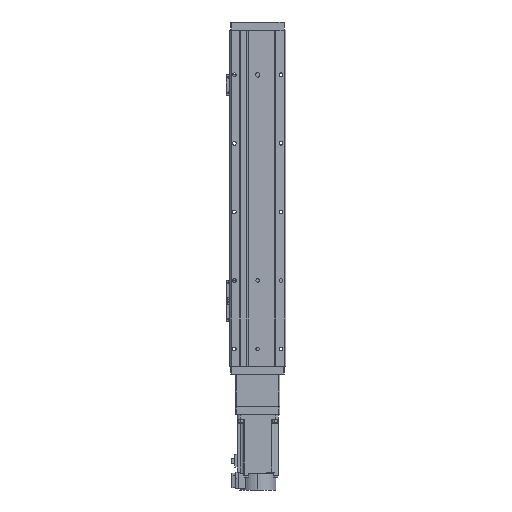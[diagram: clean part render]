
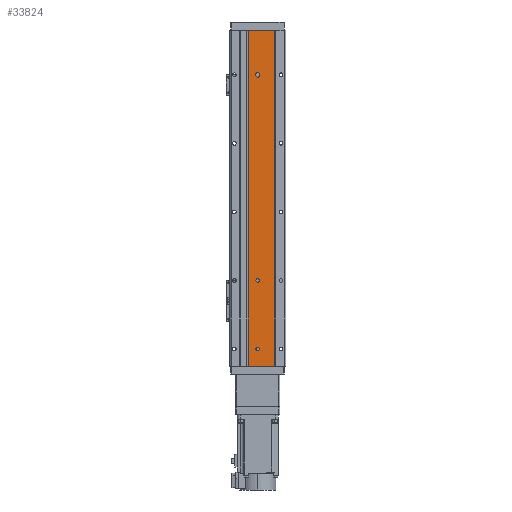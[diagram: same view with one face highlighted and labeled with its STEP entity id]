
A CAD part, front view. The second image highlights one B-rep face of the part: STEP entity #33824.
In plain terms, the highlighted planar face has unit normal (0, -1, 0).
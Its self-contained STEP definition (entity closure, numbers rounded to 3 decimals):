
#266 = AXIS2_PLACEMENT_3D ( 'NONE', #38052, #11399, #23253 ) ;
#548 = VERTEX_POINT ( 'NONE', #29110 ) ;
#782 = FACE_BOUND ( 'NONE', #17330, .T. ) ;
#853 = LINE ( 'NONE', #12718, #24518 ) ;
#1631 = DIRECTION ( 'NONE',  ( 0., 0., -1. ) ) ;
#2215 = DIRECTION ( 'NONE',  ( 1., 0., 0. ) ) ;
#2478 = DIRECTION ( 'NONE',  ( 0., -1., 0. ) ) ;
#3739 = CARTESIAN_POINT ( 'NONE',  ( -2.5, 1., -179. ) ) ;
#4239 = EDGE_CURVE ( 'NONE', #17411, #29696, #13378, .T. ) ;
#4323 = DIRECTION ( 'NONE',  ( 0., -1., 0. ) ) ;
#5245 = DIRECTION ( 'NONE',  ( 1., 0., 0. ) ) ;
#5263 = AXIS2_PLACEMENT_3D ( 'NONE', #16388, #28257, #1631 ) ;
#5514 = DIRECTION ( 'NONE',  ( 0., -1., 0. ) ) ;
#5761 = LINE ( 'NONE', #17623, #13371 ) ;
#7567 = AXIS2_PLACEMENT_3D ( 'NONE', #30952, #4323, #16171 ) ;
#7706 = CIRCLE ( 'NONE', #29440, 2.5 ) ;
#7936 = VERTEX_POINT ( 'NONE', #34484 ) ;
#8023 = EDGE_CURVE ( 'NONE', #22595, #18289, #9999, .T. ) ;
#8264 = EDGE_LOOP ( 'NONE', ( #22761, #37265 ) ) ;
#8598 = CARTESIAN_POINT ( 'NONE',  ( 2.5, 1., -181. ) ) ;
#8835 = DIRECTION ( 'NONE',  ( 0., -1., 0. ) ) ;
#9370 = ORIENTED_EDGE ( 'NONE', *, *, #31923, .F. ) ;
#9413 = ORIENTED_EDGE ( 'NONE', *, *, #13312, .T. ) ;
#9562 = VECTOR ( 'NONE', #5245, 1000. ) ;
#9574 = CARTESIAN_POINT ( 'NONE',  ( 2.5, 1., -179. ) ) ;
#9744 = CARTESIAN_POINT ( 'NONE',  ( -25., 1., 245. ) ) ;
#9897 = DIRECTION ( 'NONE',  ( 0., -1., 0. ) ) ;
#9999 = CIRCLE ( 'NONE', #31689, 2.5 ) ;
#10190 = CIRCLE ( 'NONE', #31897, 2.5 ) ;
#11399 = DIRECTION ( 'NONE',  ( 0., -1., 0. ) ) ;
#12078 = VERTEX_POINT ( 'NONE', #24048 ) ;
#12644 = FACE_BOUND ( 'NONE', #8264, .T. ) ;
#12718 = CARTESIAN_POINT ( 'NONE',  ( -2.5, 1., -179. ) ) ;
#13021 = VERTEX_POINT ( 'NONE', #15206 ) ;
#13312 = EDGE_CURVE ( 'NONE', #16101, #29696, #20012, .T. ) ;
#13371 = VECTOR ( 'NONE', #29479, 1000. ) ;
#13378 = LINE ( 'NONE', #25234, #17303 ) ;
#13443 = VECTOR ( 'NONE', #2215, 1000. ) ;
#13777 = EDGE_CURVE ( 'NONE', #7936, #13834, #7706, .T. ) ;
#13834 = VERTEX_POINT ( 'NONE', #17984 ) ;
#14039 = CARTESIAN_POINT ( 'NONE',  ( 14., 1., -245. ) ) ;
#14054 = EDGE_CURVE ( 'NONE', #12078, #31770, #22020, .T. ) ;
#14327 = DIRECTION ( 'NONE',  ( 0., 0., -1. ) ) ;
#15206 = CARTESIAN_POINT ( 'NONE',  ( -2.5, 1., -181. ) ) ;
#15661 = AXIS2_PLACEMENT_3D ( 'NONE', #36544, #9897, #21736 ) ;
#15983 = EDGE_CURVE ( 'NONE', #548, #16101, #5761, .T. ) ;
#16101 = VERTEX_POINT ( 'NONE', #33171 ) ;
#16171 = DIRECTION ( 'NONE',  ( 0., 0., -1. ) ) ;
#16388 = CARTESIAN_POINT ( 'NONE',  ( 0., 1., -181. ) ) ;
#16972 = LINE ( 'NONE', #28835, #13443 ) ;
#17014 = CIRCLE ( 'NONE', #266, 2.5 ) ;
#17303 = VECTOR ( 'NONE', #37109, 1000. ) ;
#17330 = EDGE_LOOP ( 'NONE', ( #25695, #34841 ) ) ;
#17358 = DIRECTION ( 'NONE',  ( 0., 0., -1. ) ) ;
#17411 = VERTEX_POINT ( 'NONE', #38322 ) ;
#17623 = CARTESIAN_POINT ( 'NONE',  ( -25., 1., 245. ) ) ;
#17984 = CARTESIAN_POINT ( 'NONE',  ( 0., 1., 117.5 ) ) ;
#18289 = VERTEX_POINT ( 'NONE', #3739 ) ;
#19205 = EDGE_LOOP ( 'NONE', ( #26077, #37176, #9370, #37185, #33258 ) ) ;
#20012 = LINE ( 'NONE', #31861, #9562 ) ;
#20402 = ORIENTED_EDGE ( 'NONE', *, *, #15983, .T. ) ;
#20681 = DIRECTION ( 'NONE',  ( 0., 0., -1. ) ) ;
#20947 = CARTESIAN_POINT ( 'NONE',  ( 0., 1., 217.5 ) ) ;
#21436 = DIRECTION ( 'NONE',  ( 0., 0., 1. ) ) ;
#21513 = EDGE_CURVE ( 'NONE', #23017, #31498, #24342, .T. ) ;
#21590 = DIRECTION ( 'NONE',  ( 0., 1., 0. ) ) ;
#21736 = DIRECTION ( 'NONE',  ( 0., 0., -1. ) ) ;
#22020 = CIRCLE ( 'NONE', #5263, 2.5 ) ;
#22595 = VERTEX_POINT ( 'NONE', #38400 ) ;
#22761 = ORIENTED_EDGE ( 'NONE', *, *, #37925, .F. ) ;
#23017 = VERTEX_POINT ( 'NONE', #27006 ) ;
#23253 = DIRECTION ( 'NONE',  ( 0., 0., -1. ) ) ;
#23379 = EDGE_CURVE ( 'NONE', #13021, #12078, #17014, .T. ) ;
#24018 = EDGE_CURVE ( 'NONE', #18289, #13021, #853, .T. ) ;
#24048 = CARTESIAN_POINT ( 'NONE',  ( 0., 1., -183.5 ) ) ;
#24342 = CIRCLE ( 'NONE', #7567, 2.5 ) ;
#24494 = FACE_OUTER_BOUND ( 'NONE', #34326, .T. ) ;
#24518 = VECTOR ( 'NONE', #24564, 1000. ) ;
#24564 = DIRECTION ( 'NONE',  ( 0., 0., -1. ) ) ;
#25234 = CARTESIAN_POINT ( 'NONE',  ( 14., 1., 245. ) ) ;
#25695 = ORIENTED_EDGE ( 'NONE', *, *, #32693, .F. ) ;
#26077 = ORIENTED_EDGE ( 'NONE', *, *, #24018, .F. ) ;
#27006 = CARTESIAN_POINT ( 'NONE',  ( 0., 1., 222.5 ) ) ;
#27410 = FACE_BOUND ( 'NONE', #19205, .T. ) ;
#27657 = AXIS2_PLACEMENT_3D ( 'NONE', #9744, #21590, #33440 ) ;
#28257 = DIRECTION ( 'NONE',  ( 0., -1., 0. ) ) ;
#28835 = CARTESIAN_POINT ( 'NONE',  ( -25., 1., 245. ) ) ;
#29110 = CARTESIAN_POINT ( 'NONE',  ( -25., 1., 245. ) ) ;
#29112 = CARTESIAN_POINT ( 'NONE',  ( 0., 1., 220. ) ) ;
#29440 = AXIS2_PLACEMENT_3D ( 'NONE', #35473, #8835, #20681 ) ;
#29479 = DIRECTION ( 'NONE',  ( 0., 0., -1. ) ) ;
#29696 = VERTEX_POINT ( 'NONE', #14039 ) ;
#30952 = CARTESIAN_POINT ( 'NONE',  ( 0., 1., 220. ) ) ;
#31498 = VERTEX_POINT ( 'NONE', #20947 ) ;
#31689 = AXIS2_PLACEMENT_3D ( 'NONE', #35061, #5514, #17358 ) ;
#31770 = VERTEX_POINT ( 'NONE', #8598 ) ;
#31861 = CARTESIAN_POINT ( 'NONE',  ( -25., 1., -245. ) ) ;
#31897 = AXIS2_PLACEMENT_3D ( 'NONE', #29112, #2478, #14327 ) ;
#31923 = EDGE_CURVE ( 'NONE', #31770, #22595, #36217, .T. ) ;
#32399 = ORIENTED_EDGE ( 'NONE', *, *, #34802, .F. ) ;
#32400 = CIRCLE ( 'NONE', #15661, 2.5 ) ;
#32578 = VECTOR ( 'NONE', #21436, 1000. ) ;
#32693 = EDGE_CURVE ( 'NONE', #31498, #23017, #10190, .T. ) ;
#33171 = CARTESIAN_POINT ( 'NONE',  ( -25., 1., -245. ) ) ;
#33258 = ORIENTED_EDGE ( 'NONE', *, *, #23379, .F. ) ;
#33440 = DIRECTION ( 'NONE',  ( 0., 0., 1. ) ) ;
#33701 = ORIENTED_EDGE ( 'NONE', *, *, #4239, .F. ) ;
#33824 = ADVANCED_FACE ( 'NONE', ( #27410, #782, #12644, #24494 ), #36387, .F. ) ;
#34326 = EDGE_LOOP ( 'NONE', ( #9413, #33701, #32399, #20402 ) ) ;
#34484 = CARTESIAN_POINT ( 'NONE',  ( 0., 1., 122.5 ) ) ;
#34802 = EDGE_CURVE ( 'NONE', #548, #17411, #16972, .T. ) ;
#34841 = ORIENTED_EDGE ( 'NONE', *, *, #21513, .F. ) ;
#35061 = CARTESIAN_POINT ( 'NONE',  ( 0., 1., -179. ) ) ;
#35473 = CARTESIAN_POINT ( 'NONE',  ( 0., 1., 120. ) ) ;
#36217 = LINE ( 'NONE', #9574, #32578 ) ;
#36387 = PLANE ( 'NONE',  #27657 ) ;
#36544 = CARTESIAN_POINT ( 'NONE',  ( 0., 1., 120. ) ) ;
#37109 = DIRECTION ( 'NONE',  ( 0., 0., -1. ) ) ;
#37176 = ORIENTED_EDGE ( 'NONE', *, *, #8023, .F. ) ;
#37185 = ORIENTED_EDGE ( 'NONE', *, *, #14054, .F. ) ;
#37265 = ORIENTED_EDGE ( 'NONE', *, *, #13777, .F. ) ;
#37925 = EDGE_CURVE ( 'NONE', #13834, #7936, #32400, .T. ) ;
#38052 = CARTESIAN_POINT ( 'NONE',  ( 0., 1., -181. ) ) ;
#38322 = CARTESIAN_POINT ( 'NONE',  ( 14., 1., 245. ) ) ;
#38400 = CARTESIAN_POINT ( 'NONE',  ( 2.5, 1., -179. ) ) ;
